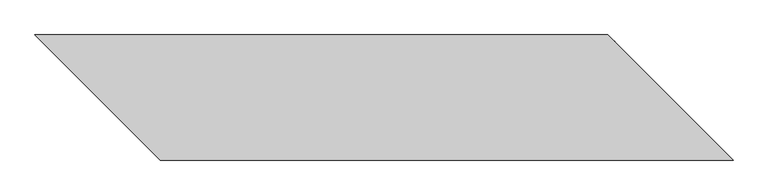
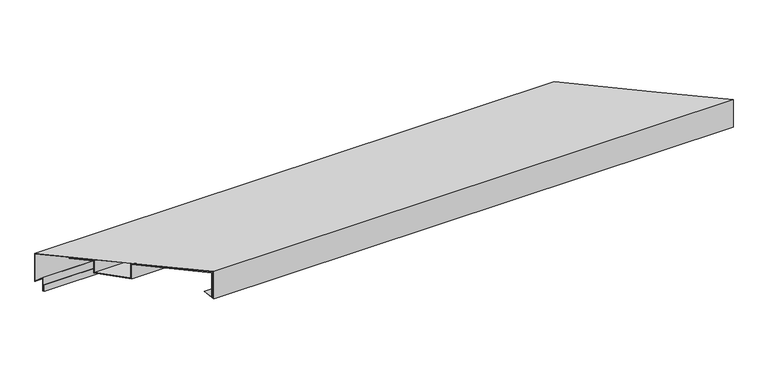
"""IFC4 building model written with IfcOpenShell, lengths in millimetres: proxy geometry, АК5_1 Парапет : АК5_1 Парапет."""

from ifc_helpers import new_model, si_unit, origin, place, context, project, spatial, faceted_brep, source, transform, mapped, element, save


def generic_models_a8cdbed0(model_context):
    return source(origin(), model_context, "Body", "Brep", [
        faceted_brep([(150.0, -150.0, 62.265966), (150.0, -150.0, -20.4), (1648.3715354, -150.0, -20.4), (1648.3715354, -150.0, 62.265966), (-177.1, 177.1, 33.6484242), (0.0, 0.0, 49.1426665), (1498.3715354, 0.0, 49.1426665), (1321.2715354, 177.1, 33.6484242), (-177.1, 177.1, -51.4916897), (1321.2715354, 177.1, -51.4916897), (-162.9578644, 162.9578644, -37.3495541), (1335.413671, 162.9578644, -37.3495541), (-162.9578644, 162.9578644, -77.3495541), (1335.413671, 162.9578644, -77.3495541), (-160.0, 160.0, -77.3495541), (1338.3715354, 160.0, -77.3495541), (-160.0, 160.0, -57.3495541), (1338.3715354, 160.0, -57.3495541), (-161.0, 161.0, -57.3495541), (1337.3715354, 161.0, -57.3495541), (-161.0, 161.0, -76.3495541), (1337.3715354, 161.0, -76.3495541), (-161.9578644, 161.9578644, -76.3495541), (1336.413671, 161.9578644, -76.3495541), (-161.9578644, 161.9578644, -34.9353406), (1336.413671, 161.9578644, -34.9353406), (-176.1, 176.1, -49.0774762), (1322.2715354, 176.1, -49.0774762), (-176.1, 176.1, 32.732093), (1322.2715354, 176.1, 32.732093), (0.0, 0.0, 48.1388467), (1498.3715354, 0.0, 48.1388467), (1647.3715354, -149.0, 61.1746575), (149.0, -149.0, 61.1746575), (149.0, -149.0, -17.9857864), (1647.3715354, -149.0, -17.9857864), (133.0294373, -133.0294373, -2.0152237), (1631.4009727, -133.0294373, -2.0152237), (132.3223305, -132.3223305, -2.7223305), (1630.6938659, -132.3223305, -2.7223305)], [[[0, 1, 2, 3]], [[4, 5, 0, 3, 6, 7]], [[8, 4, 7, 9]], [[10, 8, 9, 11]], [[12, 10, 11, 13]], [[14, 12, 13, 15]], [[16, 14, 15, 17]], [[18, 16, 17, 19]], [[20, 18, 19, 21]], [[22, 20, 21, 23]], [[24, 22, 23, 25]], [[26, 24, 25, 27]], [[28, 26, 27, 29]], [[30, 28, 29, 31, 32, 33]], [[34, 33, 32, 35]], [[36, 34, 35, 37]], [[38, 36, 37, 39]], [[1, 38, 39, 2]], [[30, 5, 4, 8, 10, 12, 14, 16, 18, 20, 22, 24, 26, 28]], [[5, 30, 33, 34, 36, 38, 1, 0]], [[6, 31, 29, 27, 25, 23, 21, 19, 17, 15, 13, 11, 9, 7]], [[31, 6, 3, 2, 39, 37, 35, 32]]]),
        faceted_brep([(148.0, -148.0, -12.5), (146.0, -146.0, -12.5), (1644.3715354, -146.0, -12.5), (1646.3715354, -148.0, -12.5), (148.0, -148.0, 60.083349), (1646.3715354, -148.0, 60.083349), (-1.5433638, 1.5433638, 47.0), (0.0, 0.0, 47.1350268), (1498.3715354, 0.0, 47.1350268), (1496.8281716, 1.5433638, 47.0), (-1.5433638, 1.5433638, 4.0), (1496.8281716, 1.5433638, 4.0), (-67.5433638, 67.5433638, 4.0), (1430.8281716, 67.5433638, 4.0), (-67.5433638, 67.5433638, 41.2257482), (1430.8281716, 67.5433638, 41.2257482), (-114.5464367, 114.5464367, 37.1135122), (1383.8250987, 114.5464367, 37.1135122), (-114.3721252, 114.3721252, 35.1211228), (1383.9994102, 114.3721252, 35.1211228), (-69.5433638, 69.5433638, 39.0431312), (1428.8281716, 69.5433638, 39.0431312), (-69.5433638, 69.5433638, 2.0), (1428.8281716, 69.5433638, 2.0), (0.0, 0.0, 2.0), (1498.3715354, 0.0, 2.0), (1498.8281716, -0.4566362, 2.0), (0.4566362, -0.4566362, 2.0), (0.4566362, -0.4566362, 45.1673377), (1498.8281716, -0.4566362, 45.1673377), (146.0, -146.0, 57.900732), (1644.3715354, -146.0, 57.900732)], [[[0, 1, 2, 3]], [[4, 0, 3, 5]], [[6, 7, 4, 5, 8, 9]], [[10, 6, 9, 11]], [[12, 10, 11, 13]], [[14, 12, 13, 15]], [[16, 14, 15, 17]], [[18, 16, 17, 19]], [[20, 18, 19, 21]], [[22, 20, 21, 23]], [[24, 22, 23, 25, 26, 27]], [[28, 27, 26, 29]], [[30, 28, 29, 31]], [[1, 30, 31, 2]], [[24, 7, 6, 10, 12, 14, 16, 18, 20, 22]], [[7, 24, 27, 28, 30, 1, 0, 4]], [[8, 25, 23, 21, 19, 17, 15, 13, 11, 9]], [[25, 8, 5, 3, 2, 31, 29, 26]]]),
    ])


if __name__ == "__main__":
    model = new_model("IFC4")
    model_context = context("Model", 3, world=origin())
    ifc_project = project(units=[si_unit("LENGTHUNIT", "METRE", prefix="MILLI")], contexts=[model_context])
    site = spatial("IfcSite", under=ifc_project)
    building = spatial("IfcBuilding", under=site)
    placement = place(None, origin())
    generic_models_shape = generic_models_a8cdbed0(model_context)
    element("IfcBuildingElementProxy", 1, Name="АК5_1 Парапет : АК5_1 Парапет", ObjectType="АК5_1 Парапет : АК5_1 Парапет", at=placement, inside=building, context=model_context, shape_type="MappedRepresentation", body=[
        mapped(generic_models_shape, transform((0.0, 0.0, 0.0), x_axis=(1.0, 0.0, 0.0), y_axis=(0.0, 1.0, 0.0), z_axis=(0.0, 0.0, 1.0))),
    ])
    save(model, "model.ifc")
